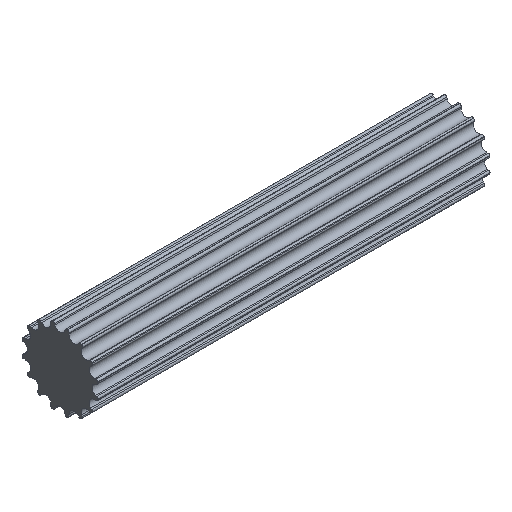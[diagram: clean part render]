
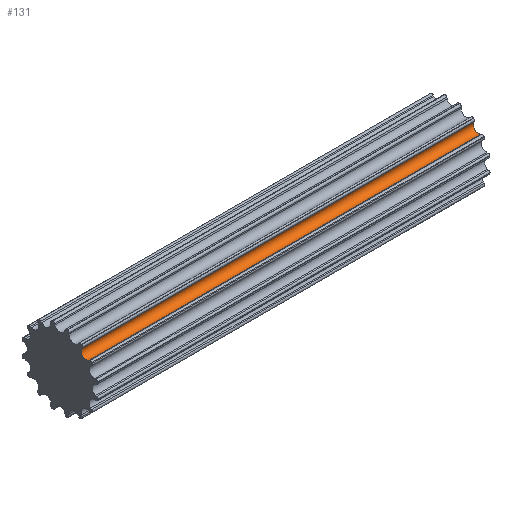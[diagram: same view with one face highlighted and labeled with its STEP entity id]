
A CAD part, isometric view. The second image highlights one B-rep face of the part: STEP entity #131.
In plain terms, the highlighted cylindrical face has radius 2.675 mm (diameter 5.35 mm), a partial arc.
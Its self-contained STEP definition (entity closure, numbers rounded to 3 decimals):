
#131 = ADVANCED_FACE( '', ( #286 ), #287, .F. );
#286 = FACE_OUTER_BOUND( '', #482, .T. );
#287 = CYLINDRICAL_SURFACE( '', #483, 2.675 );
#482 = EDGE_LOOP( '', ( #1142, #1143, #1144, #1145 ) );
#483 = AXIS2_PLACEMENT_3D( '', #1146, #1147, #1148 );
#1142 = ORIENTED_EDGE( '', *, *, #1577, .T. );
#1143 = ORIENTED_EDGE( '', *, *, #1687, .F. );
#1144 = ORIENTED_EDGE( '', *, *, #1504, .F. );
#1145 = ORIENTED_EDGE( '', *, *, #1686, .T. );
#1146 = CARTESIAN_POINT( '', ( 0., -13.481, 13.481 ) );
#1147 = DIRECTION( '', ( -1., 0., 0. ) );
#1148 = DIRECTION( '', ( 0., 0.707, 0.707 ) );
#1504 = EDGE_CURVE( '', #1856, #1858, #1859, .T. );
#1577 = EDGE_CURVE( '', #1998, #1996, #1999, .T. );
#1686 = EDGE_CURVE( '', #1856, #1998, #2166, .T. );
#1687 = EDGE_CURVE( '', #1858, #1996, #2167, .T. );
#1856 = VERTEX_POINT( '', #2361 );
#1858 = VERTEX_POINT( '', #2364 );
#1859 = CIRCLE( '', #2365, 2.675 );
#1996 = VERTEX_POINT( '', #2529 );
#1998 = VERTEX_POINT( '', #2532 );
#1999 = CIRCLE( '', #2533, 2.675 );
#2166 = LINE( '', #2768, #2769 );
#2167 = LINE( '', #2770, #2771 );
#2361 = CARTESIAN_POINT( '', ( 0., -14.629, 11.065 ) );
#2364 = CARTESIAN_POINT( '', ( 0., -11.065, 14.629 ) );
#2365 = AXIS2_PLACEMENT_3D( '', #2996, #2997, #2998 );
#2529 = CARTESIAN_POINT( '', ( 200., -11.065, 14.629 ) );
#2532 = CARTESIAN_POINT( '', ( 200., -14.629, 11.065 ) );
#2533 = AXIS2_PLACEMENT_3D( '', #3159, #3160, #3161 );
#2768 = CARTESIAN_POINT( '', ( 0., -14.629, 11.065 ) );
#2769 = VECTOR( '', #3350, 1000. );
#2770 = CARTESIAN_POINT( '', ( 0., -11.065, 14.629 ) );
#2771 = VECTOR( '', #3351, 1000. );
#2996 = CARTESIAN_POINT( '', ( 0., -13.481, 13.481 ) );
#2997 = DIRECTION( '', ( 1., 0., 0. ) );
#2998 = DIRECTION( '', ( 0., 0.707, 0.707 ) );
#3159 = CARTESIAN_POINT( '', ( 200., -13.481, 13.481 ) );
#3160 = DIRECTION( '', ( 1., 0., 0. ) );
#3161 = DIRECTION( '', ( 0., 0.707, 0.707 ) );
#3350 = DIRECTION( '', ( 1., 0., 0. ) );
#3351 = DIRECTION( '', ( 1., 0., 0. ) );
